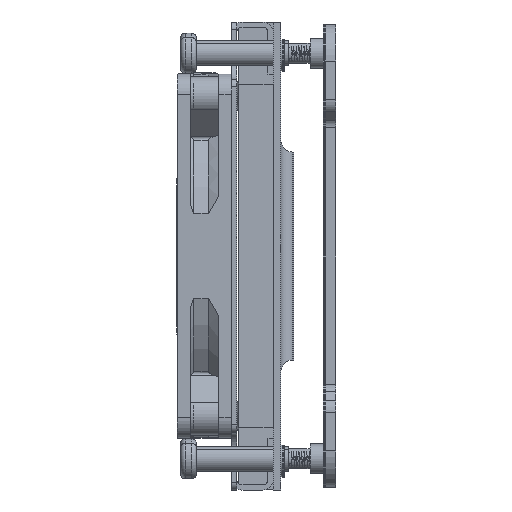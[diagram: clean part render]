
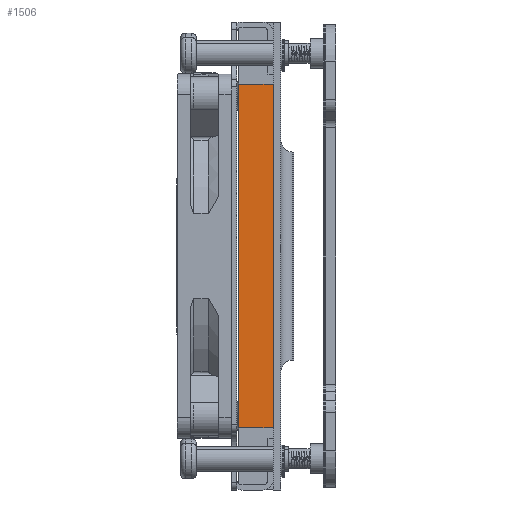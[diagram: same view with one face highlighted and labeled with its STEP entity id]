
A CAD part, left-side view. The second image highlights one B-rep face of the part: STEP entity #1506.
In plain terms, the highlighted planar face has unit normal (-1, 0, 0).
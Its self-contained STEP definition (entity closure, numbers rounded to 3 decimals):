
#180=DIRECTION('',(0.,0.,1.));
#181=VECTOR('',#180,66.08);
#182=CARTESIAN_POINT('',(-44.25,1.5,-33.04));
#183=LINE('',#182,#181);
#576=DIRECTION('',(0.,1.,0.));
#577=VECTOR('',#576,6.65);
#578=CARTESIAN_POINT('',(-44.25,1.5,33.04));
#579=LINE('',#578,#577);
#584=DIRECTION('',(0.,1.,0.));
#585=VECTOR('',#584,6.65);
#586=CARTESIAN_POINT('',(-44.25,1.5,-33.04));
#587=LINE('',#586,#585);
#588=DIRECTION('',(0.,0.,1.));
#589=VECTOR('',#588,66.08);
#590=CARTESIAN_POINT('',(-44.25,8.15,-33.04));
#591=LINE('',#590,#589);
#700=CARTESIAN_POINT('',(-44.25,1.5,-33.04));
#701=VERTEX_POINT('',#700);
#702=CARTESIAN_POINT('',(-44.25,1.5,33.04));
#703=VERTEX_POINT('',#702);
#800=CARTESIAN_POINT('',(-44.25,8.15,33.04));
#801=VERTEX_POINT('',#800);
#802=CARTESIAN_POINT('',(-44.25,8.15,-33.04));
#803=VERTEX_POINT('',#802);
#1493=CARTESIAN_POINT('',(-44.25,1.5,-33.04));
#1494=DIRECTION('',(-1.,0.,0.));
#1495=DIRECTION('',(0.,0.,1.));
#1496=AXIS2_PLACEMENT_3D('',#1493,#1494,#1495);
#1497=PLANE('',#1496);
#1498=ORIENTED_EDGE('',*,*,#903,.F.);
#1500=ORIENTED_EDGE('',*,*,#1499,.T.);
#1502=ORIENTED_EDGE('',*,*,#1501,.T.);
#1503=ORIENTED_EDGE('',*,*,#1485,.F.);
#1504=EDGE_LOOP('',(#1498,#1500,#1502,#1503));
#1505=FACE_OUTER_BOUND('',#1504,.F.);
#1506=ADVANCED_FACE('',(#1505),#1497,.T.);
#903=EDGE_CURVE('',#701,#703,#183,.T.);
#1485=EDGE_CURVE('',#703,#801,#579,.T.);
#1499=EDGE_CURVE('',#701,#803,#587,.T.);
#1501=EDGE_CURVE('',#803,#801,#591,.T.);
